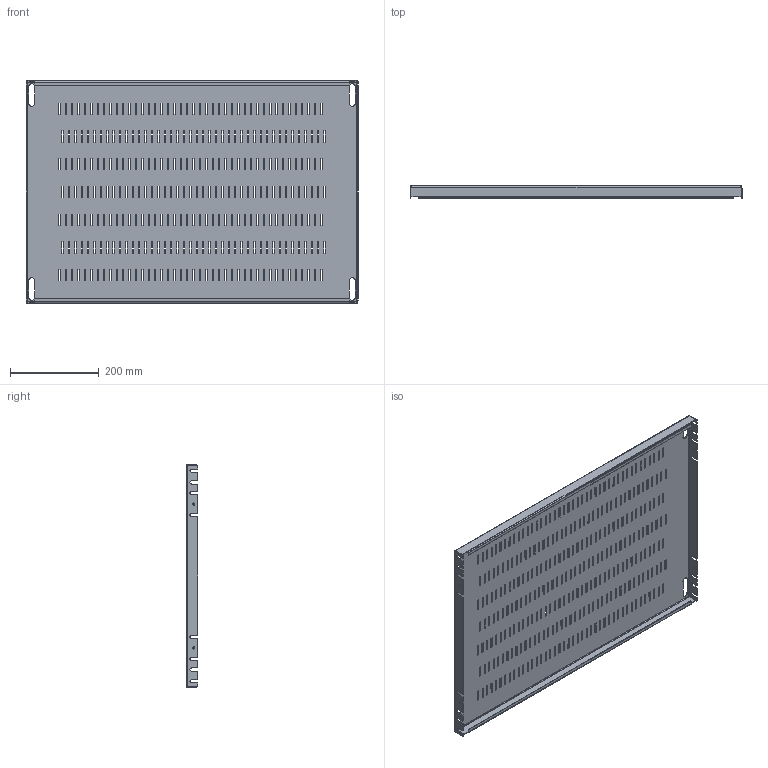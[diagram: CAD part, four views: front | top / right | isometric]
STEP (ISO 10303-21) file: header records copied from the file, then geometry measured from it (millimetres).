
FILE_DESCRIPTION (( 'STEP AP203' ), '1' );
FILE_NAME ('76460.step', '2013-04-16T09:30:05', ( '' ), ( '' ), 'SwSTEP 2.0', 'SolidWorks 2010', '' );
FILE_SCHEMA (( 'CONFIG_CONTROL_DESIGN' ));
Length unit declared in the file: inch
Products named in the file (2): 76460; 87557758
Assembly tree (1 placements, depth 2):
  76460
    87557758
Bounding box: 748 x 27 x 500.41 mm (x, y, z)
Volume: 583120.5 mm3; surface area: 863283.1 mm2
Topology: 1 solids, 1 shells, 1326 faces, 3940 edges, 2616 vertices
Faces by surface type: plane 1266, cylinder 52, bspline 8
Entity records: 45276 total; most frequent: CARTESIAN_POINT 8318, ORIENTED_EDGE 7880, DIRECTION 6644, EDGE_CURVE 3940, VECTOR 3824, LINE 3824, VERTEX_POINT 2616, EDGE_LOOP 1930
